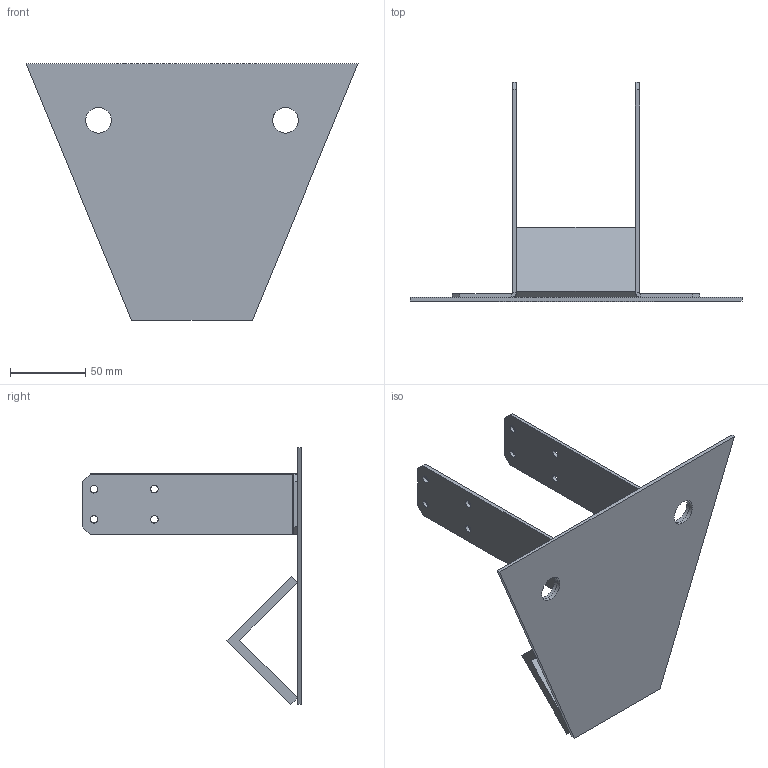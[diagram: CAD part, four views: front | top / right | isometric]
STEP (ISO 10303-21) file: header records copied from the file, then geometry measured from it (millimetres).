
FILE_DESCRIPTION (( 'STEP AP203' ), '1' );
FILE_NAME ('21101.STEP', '2020-05-22T11:30:24', ( '' ), ( '' ), 'SwSTEP 2.0', 'SolidWorks 2013', '' );
FILE_SCHEMA (( 'CONFIG_CONTROL_DESIGN' ));
Length unit declared in the file: millimetre
Products named in the file (4): PLSFB80; STSF40X175; PLWESF80; 21101
Assembly tree (4 placements, depth 2):
  21101
    PLSFB80
    PLWESF80
    STSF40X175  x2
Bounding box: 220 x 144.96 x 170 mm (x, y, z)
Volume: 151871.7 mm3; surface area: 102963.9 mm2
Topology: 4 solids, 4 shells, 74 faces, 182 edges, 116 vertices
Faces by surface type: plane 46, cylinder 28
Entity records: 1818 total; most frequent: DIRECTION 250, CARTESIAN_POINT 237, ORIENTED_EDGE 224, EDGE_CURVE 112, AXIS2_PLACEMENT_3D 85, VECTOR 80, LINE 80, VERTEX_POINT 72
